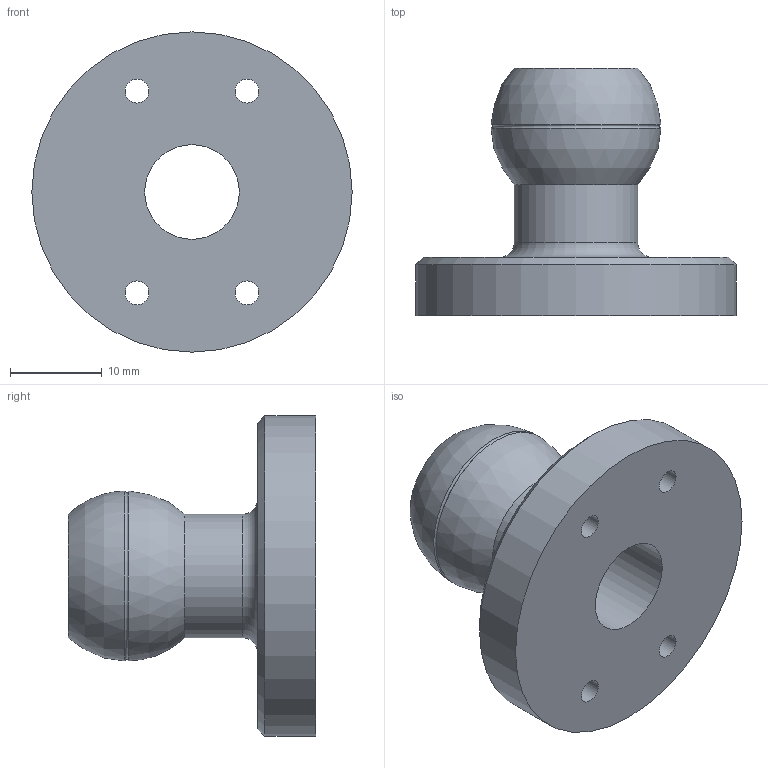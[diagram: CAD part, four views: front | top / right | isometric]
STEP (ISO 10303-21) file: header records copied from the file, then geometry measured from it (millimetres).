
FILE_DESCRIPTION(/* description */ ('Unknown'),/* implementation_level */ '2;1');
FILE_NAME(/* name */ 'SLM-510XS-S-XC56',/* time_stamp */ '2017-06-22T09:40:24-04:00',/* author */ ('Unknown'),/* organization */ ('Unknown'),/* preprocessor_version */ 'ST-DEVELOPER v16.7',/* originating_system */ 'DEX',/* authorisation */ $);
FILE_SCHEMA (('AUTOMOTIVE_DESIGN {1 0 10303 214 3 1 1}'));
Length unit declared in the file: millimetre
Products named in the file (1): SLM-510XS-S-XC56
Bounding box: 34.92 x 26.99 x 34.92 mm (x, y, z)
Volume: 7493 mm3; surface area: 4590 mm2
Topology: 1 solids, 1 shells, 24 faces, 50 edges, 33 vertices
Faces by surface type: cylinder 11, plane 7, sphere 2, cone 2, torus 2
Full cylindrical faces by diameter (mm): 2.591 x4, 4.763 x4, 10.319 x1, 13.487 x1, 34.925 x1
Entity records: 574 total; most frequent: DIRECTION 106, CARTESIAN_POINT 81, ORIENTED_EDGE 56, EDGE_LOOP 56, FACE_BOUND 56, AXIS2_PLACEMENT_3D 53, EDGE_CURVE 28, VERTEX_POINT 28
